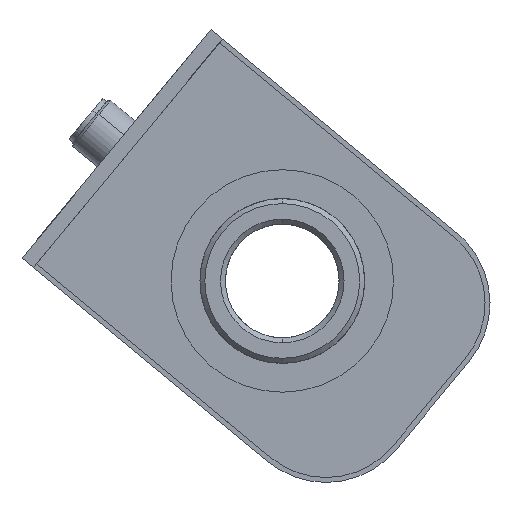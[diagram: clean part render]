
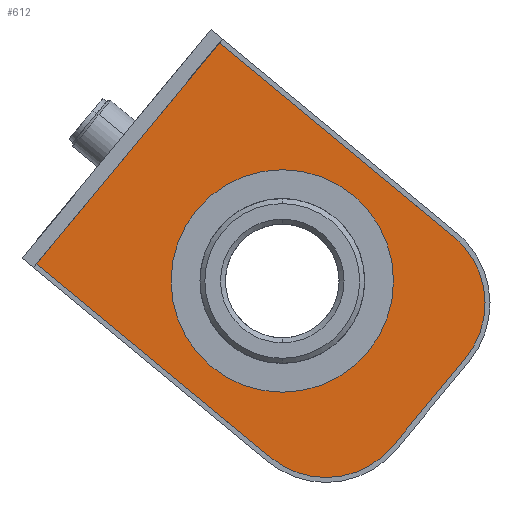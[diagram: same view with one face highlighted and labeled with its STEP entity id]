
A CAD part, left-side view. The second image highlights one B-rep face of the part: STEP entity #612.
In plain terms, the highlighted planar face has unit normal (-1, 0, 0) as drawn and (0, 0, 1) by its records, which use the part's own axes.
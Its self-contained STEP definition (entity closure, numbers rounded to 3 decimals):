
#218 = CIRCLE ( 'NONE', #5132, 17.5 ) ;
#454 = ORIENTED_EDGE ( 'NONE', *, *, #13759, .T. ) ;
#491 = LINE ( 'NONE', #697, #12857 ) ;
#612 = ADVANCED_FACE ( 'NONE', ( #13360, #615 ), #3613, .T. ) ;
#615 = FACE_BOUND ( 'NONE', #3355, .T. ) ;
#697 = CARTESIAN_POINT ( 'NONE',  ( -17.5, 79., 4. ) ) ;
#1003 = CARTESIAN_POINT ( 'NONE',  ( 0., 17.5, 4. ) ) ;
#1078 = ORIENTED_EDGE ( 'NONE', *, *, #8720, .F. ) ;
#1128 = AXIS2_PLACEMENT_3D ( 'NONE', #2771, #11138, #3966 ) ;
#1195 = DIRECTION ( 'NONE',  ( 0., 1., 0. ) ) ;
#1213 = EDGE_CURVE ( 'NONE', #14713, #8979, #10333, .T. ) ;
#1627 = VERTEX_POINT ( 'NONE', #12757 ) ;
#1695 = ORIENTED_EDGE ( 'NONE', *, *, #1213, .T. ) ;
#1909 = DIRECTION ( 'NONE',  ( 0., -1., 0. ) ) ;
#2052 = LINE ( 'NONE', #4814, #14032 ) ;
#2058 = EDGE_CURVE ( 'NONE', #5903, #11363, #5772, .T. ) ;
#2140 = CARTESIAN_POINT ( 'NONE',  ( 0., 0., 4. ) ) ;
#2221 = DIRECTION ( 'NONE',  ( 1., 0., 0. ) ) ;
#2532 = ORIENTED_EDGE ( 'NONE', *, *, #2058, .F. ) ;
#2771 = CARTESIAN_POINT ( 'NONE',  ( 11.5, 38.5, 4. ) ) ;
#2899 = DIRECTION ( 'NONE',  ( 0., 0., 1. ) ) ;
#3025 = ORIENTED_EDGE ( 'NONE', *, *, #10644, .T. ) ;
#3247 = CIRCLE ( 'NONE', #6812, 17.5 ) ;
#3355 = EDGE_LOOP ( 'NONE', ( #1078, #2532 ) ) ;
#3367 = VERTEX_POINT ( 'NONE', #13464 ) ;
#3471 = CARTESIAN_POINT ( 'NONE',  ( 40.5, 17.5, 4. ) ) ;
#3613 = PLANE ( 'NONE',  #14090 ) ;
#3966 = DIRECTION ( 'NONE',  ( 1., 0., 0. ) ) ;
#4000 = CARTESIAN_POINT ( 'NONE',  ( 29.3, 38.5, 4. ) ) ;
#4103 = ORIENTED_EDGE ( 'NONE', *, *, #6675, .T. ) ;
#4324 = CARTESIAN_POINT ( 'NONE',  ( 11.5, 38.5, 4. ) ) ;
#4527 = ORIENTED_EDGE ( 'NONE', *, *, #5939, .T. ) ;
#4814 = CARTESIAN_POINT ( 'NONE',  ( 40.5, 17.5, 4. ) ) ;
#5132 = AXIS2_PLACEMENT_3D ( 'NONE', #1003, #9378, #2221 ) ;
#5541 = DIRECTION ( 'NONE',  ( 1., 0., 0. ) ) ;
#5772 = CIRCLE ( 'NONE', #6198, 17.8 ) ;
#5903 = VERTEX_POINT ( 'NONE', #4000 ) ;
#5939 = EDGE_CURVE ( 'NONE', #8979, #12091, #3247, .T. ) ;
#6190 = CARTESIAN_POINT ( 'NONE',  ( 0., 17.5, 4. ) ) ;
#6198 = AXIS2_PLACEMENT_3D ( 'NONE', #4324, #12695, #5541 ) ;
#6675 = EDGE_CURVE ( 'NONE', #3367, #14713, #218, .T. ) ;
#6812 = AXIS2_PLACEMENT_3D ( 'NONE', #10065, #2899, #11271 ) ;
#6887 = VECTOR ( 'NONE', #7792, 1000. ) ;
#7180 = VECTOR ( 'NONE', #12917, 1000. ) ;
#7268 = LINE ( 'NONE', #13748, #6887 ) ;
#7792 = DIRECTION ( 'NONE',  ( -1., 0., 0. ) ) ;
#7807 = EDGE_LOOP ( 'NONE', ( #4103, #1695, #4527, #3025, #454, #10151 ) ) ;
#8720 = EDGE_CURVE ( 'NONE', #11363, #5903, #11651, .T. ) ;
#8979 = VERTEX_POINT ( 'NONE', #12518 ) ;
#9378 = DIRECTION ( 'NONE',  ( 0., 0., 1. ) ) ;
#9630 = DIRECTION ( 'NONE',  ( 1., 0., 0. ) ) ;
#10065 = CARTESIAN_POINT ( 'NONE',  ( 23., 17.5, 4. ) ) ;
#10151 = ORIENTED_EDGE ( 'NONE', *, *, #15264, .T. ) ;
#10333 = LINE ( 'NONE', #2140, #7180 ) ;
#10644 = EDGE_CURVE ( 'NONE', #12091, #13571, #2052, .T. ) ;
#11138 = DIRECTION ( 'NONE',  ( 0., 0., 1. ) ) ;
#11261 = CARTESIAN_POINT ( 'NONE',  ( -6.3, 38.5, 4. ) ) ;
#11271 = DIRECTION ( 'NONE',  ( 1., 0., 0. ) ) ;
#11363 = VERTEX_POINT ( 'NONE', #11261 ) ;
#11651 = CIRCLE ( 'NONE', #1128, 17.8 ) ;
#12091 = VERTEX_POINT ( 'NONE', #3471 ) ;
#12518 = CARTESIAN_POINT ( 'NONE',  ( 23., 0., 4. ) ) ;
#12695 = DIRECTION ( 'NONE',  ( 0., 0., 1. ) ) ;
#12757 = CARTESIAN_POINT ( 'NONE',  ( -17.5, 79., 4. ) ) ;
#12857 = VECTOR ( 'NONE', #1909, 1000. ) ;
#12917 = DIRECTION ( 'NONE',  ( 1., 0., 0. ) ) ;
#13360 = FACE_OUTER_BOUND ( 'NONE', #7807, .T. ) ;
#13464 = CARTESIAN_POINT ( 'NONE',  ( -17.5, 17.5, 4. ) ) ;
#13571 = VERTEX_POINT ( 'NONE', #14589 ) ;
#13748 = CARTESIAN_POINT ( 'NONE',  ( 40.5, 79., 4. ) ) ;
#13759 = EDGE_CURVE ( 'NONE', #13571, #1627, #7268, .T. ) ;
#14032 = VECTOR ( 'NONE', #1195, 1000. ) ;
#14090 = AXIS2_PLACEMENT_3D ( 'NONE', #6190, #14588, #9630 ) ;
#14588 = DIRECTION ( 'NONE',  ( 0., 0., 1. ) ) ;
#14589 = CARTESIAN_POINT ( 'NONE',  ( 40.5, 79., 4. ) ) ;
#14713 = VERTEX_POINT ( 'NONE', #15197 ) ;
#15197 = CARTESIAN_POINT ( 'NONE',  ( 0., 0., 4. ) ) ;
#15264 = EDGE_CURVE ( 'NONE', #1627, #3367, #491, .T. ) ;
